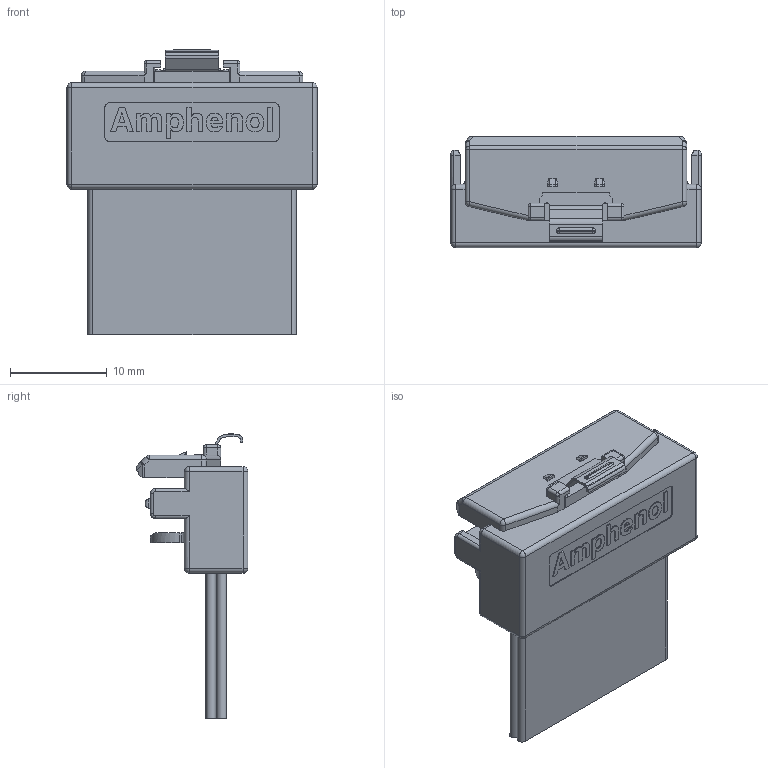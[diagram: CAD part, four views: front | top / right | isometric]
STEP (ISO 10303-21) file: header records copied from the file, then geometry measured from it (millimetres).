
FILE_DESCRIPTION((''),'2;1');
FILE_NAME('AST8654-0074-26_20180711','2018-07-11T',('linoliu'),(''),'CREO PARAMETRIC BY PTC INC, 2016050','CREO PARAMETRIC BY PTC INC, 2016050','');
FILE_SCHEMA(('CONFIG_CONTROL_DESIGN','GEOMETRIC_VALIDATION_PROPERTIES_MIM'));
Length unit declared in the file: millimetre
Products named in the file (1): AST8654-0074-26_20180711
Bounding box: 25.8 x 11.53 x 29.41 mm (x, y, z)
Volume: 3011 mm3; surface area: 3180.9 mm2
Topology: 1 solids, 1 shells, 388 faces, 1038 edges, 657 vertices
Faces by surface type: plane 181, cylinder 100, extrusion 73, sphere 18, bspline 8, torus 8
Entity records: 12611 total; most frequent: CARTESIAN_POINT 3136, ORIENTED_EDGE 2040, DIRECTION 1713, EDGE_CURVE 1020, VECTOR 693, VERTEX_POINT 657, LINE 620, AXIS2_PLACEMENT_3D 510
